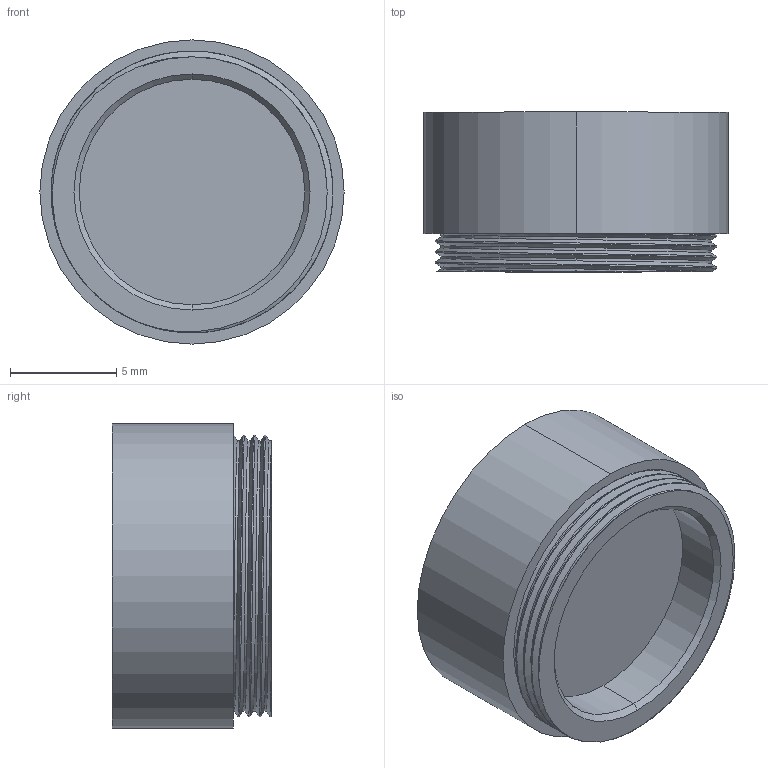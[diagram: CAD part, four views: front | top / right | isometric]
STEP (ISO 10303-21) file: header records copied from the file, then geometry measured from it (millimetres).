
FILE_DESCRIPTION (( 'STEP AP214' ), '1' );
FILE_NAME ('M13.25 x P0.5.STEP', '2023-01-19T08:17:42', ( '' ), ( '' ), 'SwSTEP 2.0', 'SolidWorks 2021', '' );
FILE_SCHEMA (( 'AUTOMOTIVE_DESIGN' ));
Length unit declared in the file: millimetre
Products named in the file (1): M13.25 x P0.5
Bounding box: 14.3 x 7.5 x 14.3 mm (x, y, z)
Volume: 334.7 mm3; surface area: 1245.6 mm2
Topology: 3 solids, 3 shells, 52 faces, 127 edges, 84 vertices
Faces by surface type: cylinder 34, plane 10, bspline 6, cone 2
Entity records: 2984 total; most frequent: CARTESIAN_POINT 1847, ORIENTED_EDGE 254, DIRECTION 197, EDGE_CURVE 127, VERTEX_POINT 84, AXIS2_PLACEMENT_3D 81, EDGE_LOOP 59, ADVANCED_FACE 52
